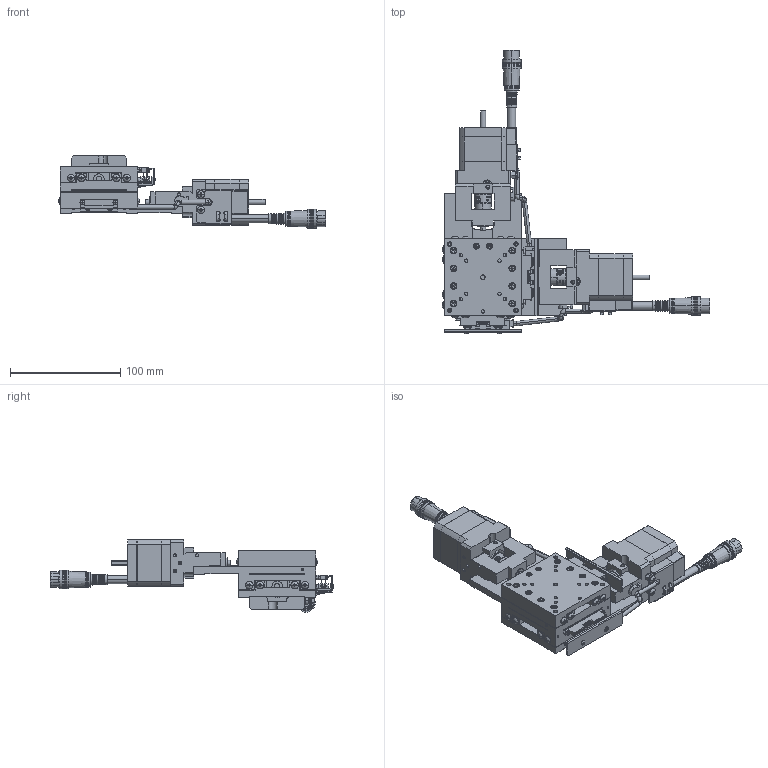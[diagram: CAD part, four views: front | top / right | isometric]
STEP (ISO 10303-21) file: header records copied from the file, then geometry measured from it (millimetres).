
FILE_DESCRIPTION (( 'STEP AP203' ), '1' );
FILE_NAME ('YA07A-R103-RRR.STEP', '2019-02-26T08:46:56', ( '' ), ( '' ), 'SwSTEP 2.0', 'SolidWorks 2018', '' );
FILE_SCHEMA (( 'CONFIG_CONTROL_DESIGN' ));
Length unit declared in the file: millimetre
Products named in the file (10): base; base-Part-3; second table-Part-2; second table; second table-Part-3; base-Part-2; YA07A-R103-RRR; second table-Part-1; base-Part-1; table
Assembly tree (9 placements, depth 3):
  YA07A-R103-RRR
    second table
      second table-Part-1
      second table-Part-2
      second table-Part-3
    base
      base-Part-1
      base-Part-2
      base-Part-3
    table
Bounding box: 242.39 x 256.68 x 65.5 mm (x, y, z)
Volume: 455909.9 mm3; surface area: 153948.6 mm2
Topology: 7 solids, 13 shells, 4141 faces, 10325 edges, 6336 vertices
Faces by surface type: plane 2381, cylinder 1028, cone 556, torus 108, sphere 68
Entity records: 124341 total; most frequent: CARTESIAN_POINT 22802, DIRECTION 21945, ORIENTED_EDGE 20290, EDGE_CURVE 10145, AXIS2_PLACEMENT_3D 7919, VERTEX_POINT 6324, LINE 6107, VECTOR 6107
